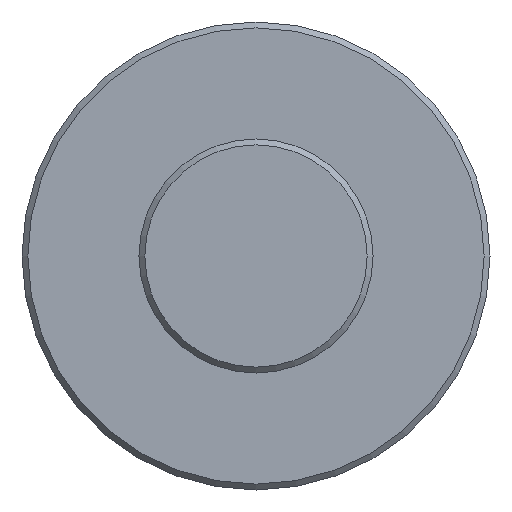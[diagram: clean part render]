
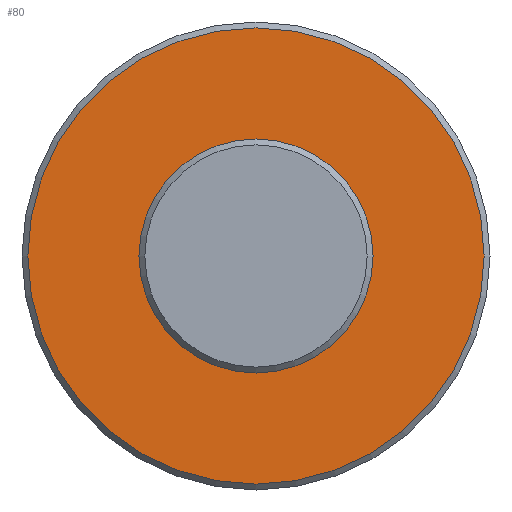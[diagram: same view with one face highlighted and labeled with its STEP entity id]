
A CAD part, front view. The second image highlights one B-rep face of the part: STEP entity #80.
In plain terms, the highlighted planar face has unit normal (0, -1, 0).
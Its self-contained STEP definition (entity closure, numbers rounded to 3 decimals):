
#11 = EDGE_CURVE ( 'NONE', #21, #21, #123, .T. ) ;
#15 = AXIS2_PLACEMENT_3D ( 'NONE', #120, #19, #177 ) ;
#19 = DIRECTION ( 'NONE',  ( 0., -1., 0. ) ) ;
#20 = CARTESIAN_POINT ( 'NONE',  ( 0., -1.5, -4. ) ) ;
#21 = VERTEX_POINT ( 'NONE', #103 ) ;
#25 = DIRECTION ( 'NONE',  ( 0., 0., 1. ) ) ;
#32 = DIRECTION ( 'NONE',  ( 0., -1., 0. ) ) ;
#43 = CARTESIAN_POINT ( 'NONE',  ( 0., -1.5, 0. ) ) ;
#80 = ADVANCED_FACE ( 'NONE', ( #115, #151 ), #190, .T. ) ;
#87 = EDGE_LOOP ( 'NONE', ( #219 ) ) ;
#103 = CARTESIAN_POINT ( 'NONE',  ( 0., -1.5, 7.8 ) ) ;
#115 = FACE_BOUND ( 'NONE', #87, .T. ) ;
#120 = CARTESIAN_POINT ( 'NONE',  ( 0., -1.5, 0. ) ) ;
#123 = CIRCLE ( 'NONE', #154, 7.8 ) ;
#149 = ORIENTED_EDGE ( 'NONE', *, *, #11, .T. ) ;
#151 = FACE_OUTER_BOUND ( 'NONE', #182, .T. ) ;
#154 = AXIS2_PLACEMENT_3D ( 'NONE', #43, #235, #25 ) ;
#177 = DIRECTION ( 'NONE',  ( 0., 0., -1. ) ) ;
#182 = EDGE_LOOP ( 'NONE', ( #149 ) ) ;
#187 = AXIS2_PLACEMENT_3D ( 'NONE', #203, #32, #207 ) ;
#190 = PLANE ( 'NONE',  #187 ) ;
#192 = VERTEX_POINT ( 'NONE', #20 ) ;
#203 = CARTESIAN_POINT ( 'NONE',  ( 8., -1.5, 0. ) ) ;
#207 = DIRECTION ( 'NONE',  ( 0., 0., -1. ) ) ;
#219 = ORIENTED_EDGE ( 'NONE', *, *, #223, .F. ) ;
#223 = EDGE_CURVE ( 'NONE', #192, #192, #244, .T. ) ;
#235 = DIRECTION ( 'NONE',  ( 0., -1., 0. ) ) ;
#244 = CIRCLE ( 'NONE', #15, 4. ) ;
